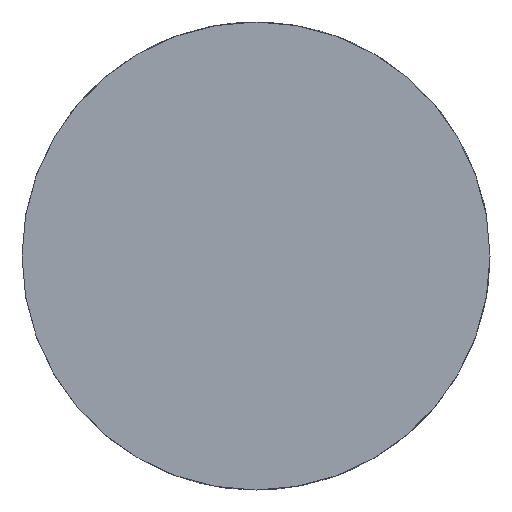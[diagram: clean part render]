
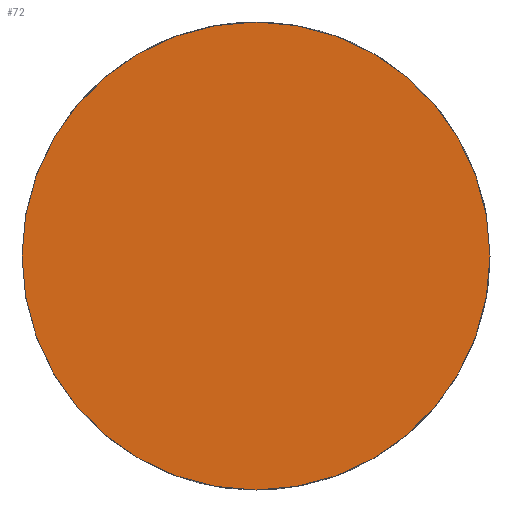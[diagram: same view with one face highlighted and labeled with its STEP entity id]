
A CAD part, front view. The second image highlights one B-rep face of the part: STEP entity #72.
In plain terms, the highlighted planar face has unit normal (0, -1, 0).
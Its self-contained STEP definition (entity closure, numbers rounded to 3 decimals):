
#46=CIRCLE('',#99,20.);
#52=FACE_OUTER_BOUND('',#55,.T.);
#55=EDGE_LOOP('',(#67));
#58=VERTEX_POINT('',#158);
#61=EDGE_CURVE('',#58,#58,#46,.T.);
#67=ORIENTED_EDGE('',*,*,#61,.F.);
#69=PLANE('',#100);
#72=ADVANCED_FACE('',(#52),#69,.F.);
#99=AXIS2_PLACEMENT_3D('',#160,#123,#124);
#100=AXIS2_PLACEMENT_3D('',#161,#125,#126);
#123=DIRECTION('center_axis',(0.,1.,0.));
#124=DIRECTION('ref_axis',(-1.,0.,0.));
#125=DIRECTION('center_axis',(0.,1.,0.));
#126=DIRECTION('ref_axis',(0.,0.,1.));
#158=CARTESIAN_POINT('',(20.,0.,0.));
#160=CARTESIAN_POINT('Origin',(0.,0.,0.));
#161=CARTESIAN_POINT('Origin',(0.,0.,0.));
